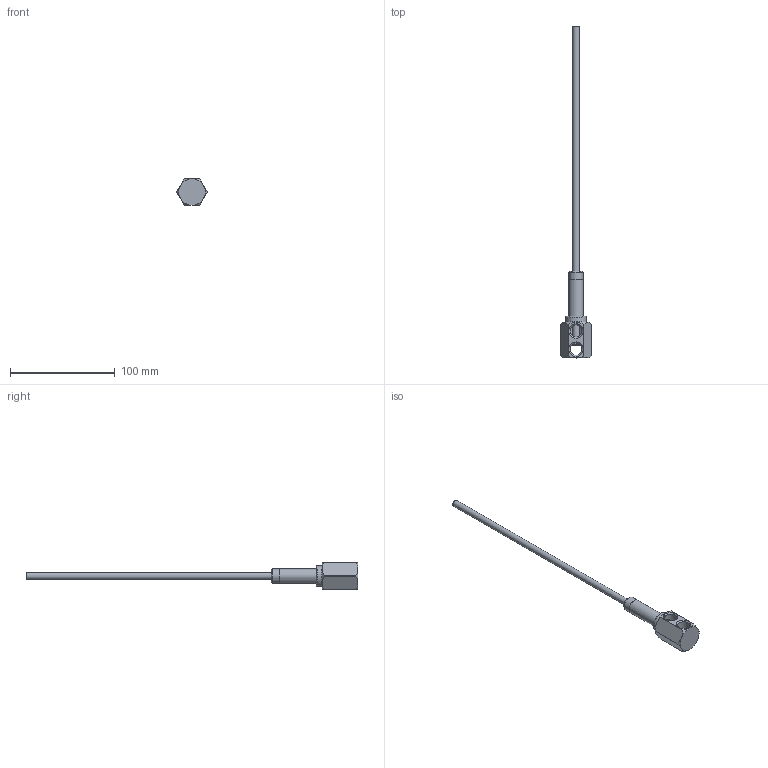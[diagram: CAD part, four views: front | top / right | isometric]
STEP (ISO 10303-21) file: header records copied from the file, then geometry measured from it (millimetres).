
FILE_DESCRIPTION(/* description */ (''),/* implementation_level */ '2;1');
FILE_NAME(/* name */ 'C:/Users/drich/Desktop/146N-4 v1.step',/* time_stamp */ '2020-01-15T19:40:34-06:00',/* author */ (''),/* organization */ (''),/* preprocessor_version */ 'ST-DEVELOPER v18',/* originating_system */ 'Autodesk Translation Framework v8.12.0.6',/* authorisation */ '');
FILE_SCHEMA (('AUTOMOTIVE_DESIGN { 1 0 10303 214 3 1 1 }'));
Length unit declared in the file: inch
Products named in the file (4): 146N-4; 146H-4; SSPN14-2; 250T-12
Assembly tree (3 placements, depth 2):
  146N-4
    146H-4
    SSPN14-2
    250T-12
Bounding box: 29.26 x 317.04 x 25.4 mm (x, y, z)
Volume: 23668.2 mm3; surface area: 19749.7 mm2
Topology: 3 solids, 3 shells, 50 faces, 134 edges, 92 vertices
Faces by surface type: cylinder 18, cone 15, plane 15, torus 2
Full cylindrical faces by diameter (mm): 4.318 x1, 5.474 x1, 6.243 x1, 9.246 x1, 11.668 x4, 13.665 x2, 13.716 x1, 19.812 x1
Entity records: 1801 total; most frequent: CARTESIAN_POINT 380, DIRECTION 301, ORIENTED_EDGE 268, EDGE_CURVE 134, AXIS2_PLACEMENT_3D 133, VERTEX_POINT 92, CIRCLE 74, EDGE_LOOP 62
